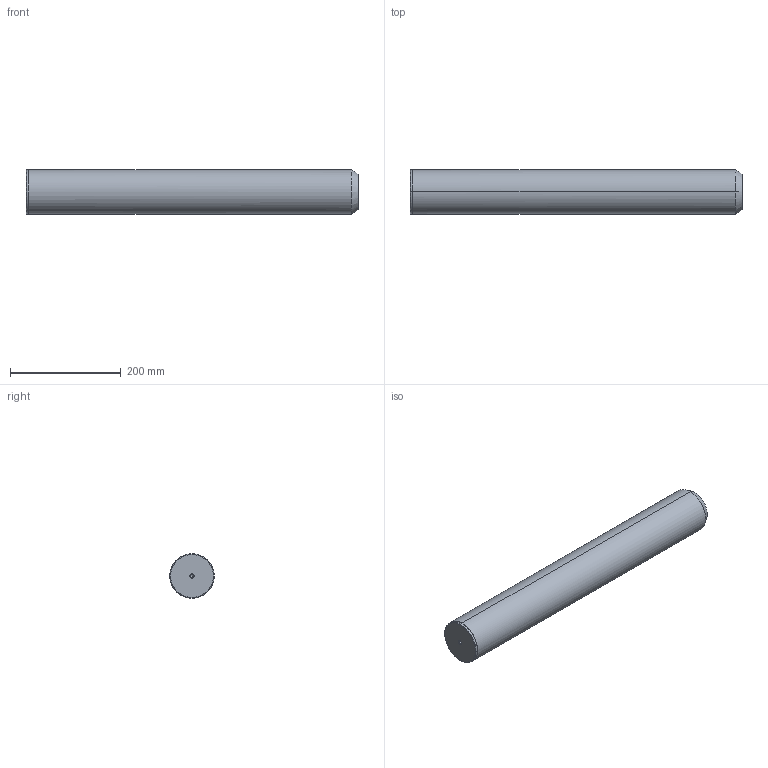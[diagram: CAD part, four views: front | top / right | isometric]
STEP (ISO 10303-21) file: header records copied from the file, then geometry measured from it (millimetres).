
FILE_DESCRIPTION(('CATIA V5 STEP Exchange'),'2;1');
FILE_NAME('C:\Users\Utente\Desktop\IO LAVORO\3D X SITO CF\X SITO\720\720-80x600.stp','2020-12-30T21:18:13+00:00',('none'),('none'),'CATIA Version 5 Release 20 GA (IN-10)','CATIA V5 STEP AP203','none');
FILE_SCHEMA(('CONFIG_CONTROL_DESIGN'));
Length unit declared in the file: millimetre
Products named in the file (1): 720-80x600
Bounding box: 600 x 80 x 80 mm (x, y, z)
Volume: 3003943.9 mm3; surface area: 159934.2 mm2
Topology: 1 solids, 1 shells, 26 faces, 82 edges, 58 vertices
Faces by surface type: cone 10, cylinder 10, plane 4, bspline 2
Entity records: 1094 total; most frequent: CARTESIAN_POINT 387, ORIENTED_EDGE 156, DIRECTION 104, EDGE_CURVE 78, AXIS2_PLACEMENT_3D 61, VERTEX_POINT 58, CIRCLE 36, EDGE_LOOP 30
